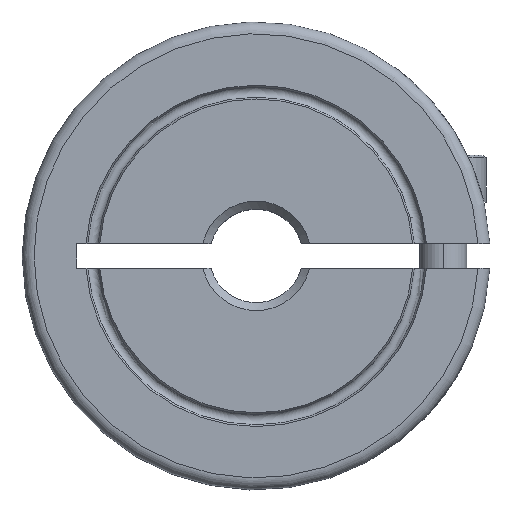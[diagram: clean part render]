
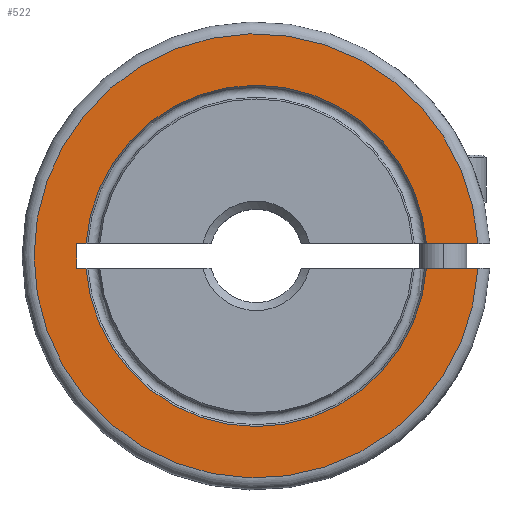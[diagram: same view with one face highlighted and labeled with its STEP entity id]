
A CAD part, top view. The second image highlights one B-rep face of the part: STEP entity #522.
In plain terms, the highlighted planar face has unit normal (0, 0, 1).
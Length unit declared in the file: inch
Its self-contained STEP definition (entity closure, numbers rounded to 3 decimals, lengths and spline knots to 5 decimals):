
#41 = EDGE_LOOP ( 'NONE', ( #1060, #246, #540, #1742, #720, #611, #1267, #1507 ) ) ;
#42 = EDGE_CURVE ( 'NONE', #78, #645, #1582, .T. ) ;
#49 = EDGE_CURVE ( 'NONE', #1383, #1330, #1852, .T. ) ;
#75 = AXIS2_PLACEMENT_3D ( 'NONE', #1409, #412, #826 ) ;
#78 = VERTEX_POINT ( 'NONE', #1584 ) ;
#234 = CARTESIAN_POINT ( 'NONE',  ( 0., 0., 0.15748 ) ) ;
#246 = ORIENTED_EDGE ( 'NONE', *, *, #1770, .T. ) ;
#248 = CARTESIAN_POINT ( 'NONE',  ( 0.59055, -0.0315, 0.15748 ) ) ;
#259 = CARTESIAN_POINT ( 'NONE',  ( 0., 0., 0.15748 ) ) ;
#380 = VERTEX_POINT ( 'NONE', #1745 ) ;
#402 = CARTESIAN_POINT ( 'NONE',  ( 0.59055, 0.0315, 0.15748 ) ) ;
#405 = DIRECTION ( 'NONE',  ( 1., 0., 0. ) ) ;
#411 = CARTESIAN_POINT ( 'NONE',  ( -0.42955, -0.0315, 0.15748 ) ) ;
#412 = DIRECTION ( 'NONE',  ( 0., 0., 1. ) ) ;
#437 = VECTOR ( 'NONE', #1685, 39.37008 ) ;
#439 = AXIS2_PLACEMENT_3D ( 'NONE', #234, #797, #1089 ) ;
#463 = VECTOR ( 'NONE', #1688, 39.37008 ) ;
#509 = CIRCLE ( 'NONE', #75, 0.43071 ) ;
#522 = ADVANCED_FACE ( 'NONE', ( #1292 ), #906, .T. ) ;
#540 = ORIENTED_EDGE ( 'NONE', *, *, #49, .F. ) ;
#589 = VECTOR ( 'NONE', #1540, 39.37008 ) ;
#611 = ORIENTED_EDGE ( 'NONE', *, *, #628, .F. ) ;
#628 = EDGE_CURVE ( 'NONE', #1137, #908, #854, .T. ) ;
#645 = VERTEX_POINT ( 'NONE', #1630 ) ;
#697 = VECTOR ( 'NONE', #756, 39.37008 ) ;
#720 = ORIENTED_EDGE ( 'NONE', *, *, #1240, .F. ) ;
#756 = DIRECTION ( 'NONE',  ( 0., -1., 0. ) ) ;
#797 = DIRECTION ( 'NONE',  ( 0., 0., 1. ) ) ;
#826 = DIRECTION ( 'NONE',  ( 1., 0., 0. ) ) ;
#834 = DIRECTION ( 'NONE',  ( 0., 0., 1. ) ) ;
#845 = CARTESIAN_POINT ( 'NONE',  ( -0.45276, -0.0315, 0.15748 ) ) ;
#854 = LINE ( 'NONE', #1625, #697 ) ;
#891 = CARTESIAN_POINT ( 'NONE',  ( 0.42955, -0.0315, 0.15748 ) ) ;
#906 = PLANE ( 'NONE',  #1203 ) ;
#908 = VERTEX_POINT ( 'NONE', #845 ) ;
#909 = CARTESIAN_POINT ( 'NONE',  ( 0.55967, -0.0315, 0.15748 ) ) ;
#1046 = CARTESIAN_POINT ( 'NONE',  ( 0., 0., 0.15748 ) ) ;
#1060 = ORIENTED_EDGE ( 'NONE', *, *, #42, .F. ) ;
#1087 = DIRECTION ( 'NONE',  ( 1., 0., 0. ) ) ;
#1089 = DIRECTION ( 'NONE',  ( 1., 0., 0. ) ) ;
#1137 = VERTEX_POINT ( 'NONE', #1199 ) ;
#1199 = CARTESIAN_POINT ( 'NONE',  ( -0.45276, 0.0315, 0.15748 ) ) ;
#1203 = AXIS2_PLACEMENT_3D ( 'NONE', #1046, #1760, #1651 ) ;
#1207 = VERTEX_POINT ( 'NONE', #411 ) ;
#1240 = EDGE_CURVE ( 'NONE', #908, #1207, #1707, .T. ) ;
#1267 = ORIENTED_EDGE ( 'NONE', *, *, #1296, .F. ) ;
#1268 = EDGE_CURVE ( 'NONE', #645, #380, #509, .T. ) ;
#1292 = FACE_OUTER_BOUND ( 'NONE', #41, .T. ) ;
#1296 = EDGE_CURVE ( 'NONE', #380, #1137, #1818, .T. ) ;
#1330 = VERTEX_POINT ( 'NONE', #909 ) ;
#1383 = VERTEX_POINT ( 'NONE', #891 ) ;
#1409 = CARTESIAN_POINT ( 'NONE',  ( 0., 0., 0.15748 ) ) ;
#1418 = CIRCLE ( 'NONE', #1855, 0.56055 ) ;
#1507 = ORIENTED_EDGE ( 'NONE', *, *, #1268, .F. ) ;
#1525 = EDGE_CURVE ( 'NONE', #1207, #1383, #1835, .T. ) ;
#1540 = DIRECTION ( 'NONE',  ( 1., 0., 0. ) ) ;
#1582 = LINE ( 'NONE', #402, #437 ) ;
#1584 = CARTESIAN_POINT ( 'NONE',  ( 0.55967, 0.0315, 0.15748 ) ) ;
#1594 = CARTESIAN_POINT ( 'NONE',  ( 0.59055, -0.0315, 0.15748 ) ) ;
#1625 = CARTESIAN_POINT ( 'NONE',  ( -0.45276, 0.0315, 0.15748 ) ) ;
#1630 = CARTESIAN_POINT ( 'NONE',  ( 0.42955, 0.0315, 0.15748 ) ) ;
#1651 = DIRECTION ( 'NONE',  ( 1., 0., 0. ) ) ;
#1659 = VECTOR ( 'NONE', #1087, 39.37008 ) ;
#1685 = DIRECTION ( 'NONE',  ( -1., 0., 0. ) ) ;
#1688 = DIRECTION ( 'NONE',  ( -1., 0., 0. ) ) ;
#1707 = LINE ( 'NONE', #248, #1659 ) ;
#1742 = ORIENTED_EDGE ( 'NONE', *, *, #1525, .F. ) ;
#1745 = CARTESIAN_POINT ( 'NONE',  ( -0.42955, 0.0315, 0.15748 ) ) ;
#1760 = DIRECTION ( 'NONE',  ( 0., 0., 1. ) ) ;
#1770 = EDGE_CURVE ( 'NONE', #78, #1330, #1418, .T. ) ;
#1818 = LINE ( 'NONE', #1840, #463 ) ;
#1835 = CIRCLE ( 'NONE', #439, 0.43071 ) ;
#1840 = CARTESIAN_POINT ( 'NONE',  ( 0.59055, 0.0315, 0.15748 ) ) ;
#1852 = LINE ( 'NONE', #1594, #589 ) ;
#1855 = AXIS2_PLACEMENT_3D ( 'NONE', #259, #834, #405 ) ;
